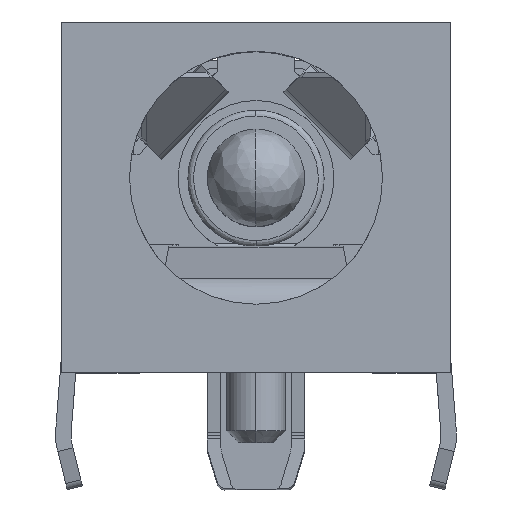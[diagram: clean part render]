
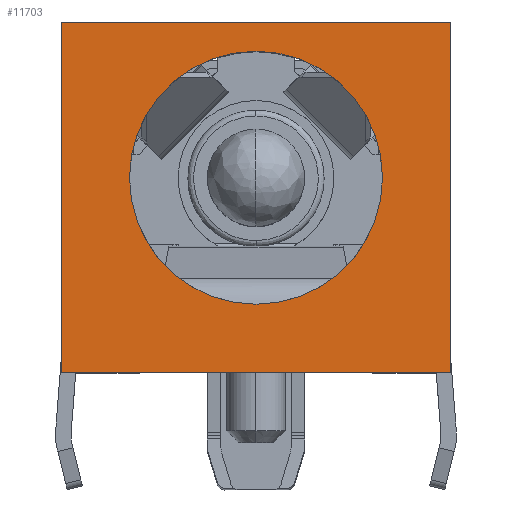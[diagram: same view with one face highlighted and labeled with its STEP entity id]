
A CAD part, top view. The second image highlights one B-rep face of the part: STEP entity #11703.
In plain terms, the highlighted planar face has unit normal (0, 0, 1).
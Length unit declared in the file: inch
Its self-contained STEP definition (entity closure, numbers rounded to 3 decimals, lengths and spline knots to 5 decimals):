
#174 = ORIENTED_EDGE ( 'NONE', *, *, #7807, .F. ) ;
#231 = CIRCLE ( 'NONE', #1441, 0.12795 ) ;
#497 = CARTESIAN_POINT ( 'NONE',  ( 0.12795, 0., 0. ) ) ;
#1021 = DIRECTION ( 'NONE',  ( 0., 0., 1. ) ) ;
#1122 = PLANE ( 'NONE',  #18113 ) ;
#1144 = CARTESIAN_POINT ( 'NONE',  ( 0.19685, 0.15748, 0. ) ) ;
#1363 = CARTESIAN_POINT ( 'NONE',  ( 0.19685, -0.19685, 0. ) ) ;
#1441 = AXIS2_PLACEMENT_3D ( 'NONE', #8064, #16854, #5487 ) ;
#1477 = EDGE_LOOP ( 'NONE', ( #174, #14335 ) ) ;
#1730 = CIRCLE ( 'NONE', #12362, 0.12795 ) ;
#1814 = LINE ( 'NONE', #14690, #4935 ) ;
#2357 = DIRECTION ( 'NONE',  ( 1., 0., 0. ) ) ;
#2419 = EDGE_CURVE ( 'NONE', #15585, #18159, #7420, .T. ) ;
#2587 = ORIENTED_EDGE ( 'NONE', *, *, #2419, .F. ) ;
#4052 = CARTESIAN_POINT ( 'NONE',  ( -0.12795, 0., 0. ) ) ;
#4935 = VECTOR ( 'NONE', #16213, 39.37008 ) ;
#5040 = DIRECTION ( 'NONE',  ( 0., 0., 1. ) ) ;
#5095 = VECTOR ( 'NONE', #18625, 39.37008 ) ;
#5192 = FACE_OUTER_BOUND ( 'NONE', #6737, .T. ) ;
#5487 = DIRECTION ( 'NONE',  ( 1., 0., 0. ) ) ;
#5867 = EDGE_CURVE ( 'NONE', #18159, #17656, #1814, .T. ) ;
#6155 = VECTOR ( 'NONE', #8662, 39.37008 ) ;
#6737 = EDGE_LOOP ( 'NONE', ( #16828, #2587, #15404, #15776 ) ) ;
#7420 = LINE ( 'NONE', #15935, #6155 ) ;
#7807 = EDGE_CURVE ( 'NONE', #14946, #17084, #231, .T. ) ;
#7973 = EDGE_CURVE ( 'NONE', #17656, #9968, #17524, .T. ) ;
#8064 = CARTESIAN_POINT ( 'NONE',  ( 0., 0., 0. ) ) ;
#8662 = DIRECTION ( 'NONE',  ( 1., 0., 0. ) ) ;
#8699 = EDGE_CURVE ( 'NONE', #9968, #15585, #12895, .T. ) ;
#9513 = DIRECTION ( 'NONE',  ( 1., 0., 0. ) ) ;
#9611 = CARTESIAN_POINT ( 'NONE',  ( 0., 0., 0. ) ) ;
#9677 = FACE_BOUND ( 'NONE', #1477, .T. ) ;
#9778 = CARTESIAN_POINT ( 'NONE',  ( -0.19685, 0.15748, 0. ) ) ;
#9968 = VERTEX_POINT ( 'NONE', #13185 ) ;
#11703 = ADVANCED_FACE ( 'NONE', ( #9677, #5192 ), #1122, .T. ) ;
#12362 = AXIS2_PLACEMENT_3D ( 'NONE', #9611, #5040, #9513 ) ;
#12733 = EDGE_CURVE ( 'NONE', #17084, #14946, #1730, .T. ) ;
#12895 = LINE ( 'NONE', #15858, #5095 ) ;
#13135 = CARTESIAN_POINT ( 'NONE',  ( 0., -0.19685, 0. ) ) ;
#13185 = CARTESIAN_POINT ( 'NONE',  ( -0.19685, -0.19685, 0. ) ) ;
#14335 = ORIENTED_EDGE ( 'NONE', *, *, #12733, .F. ) ;
#14550 = VECTOR ( 'NONE', #18766, 39.37008 ) ;
#14690 = CARTESIAN_POINT ( 'NONE',  ( 0.19685, -0.01969, 0. ) ) ;
#14946 = VERTEX_POINT ( 'NONE', #497 ) ;
#15404 = ORIENTED_EDGE ( 'NONE', *, *, #8699, .F. ) ;
#15426 = CARTESIAN_POINT ( 'NONE',  ( -0.20472, -0.20394, 0. ) ) ;
#15585 = VERTEX_POINT ( 'NONE', #9778 ) ;
#15776 = ORIENTED_EDGE ( 'NONE', *, *, #7973, .F. ) ;
#15858 = CARTESIAN_POINT ( 'NONE',  ( -0.19685, -0.01969, 0. ) ) ;
#15935 = CARTESIAN_POINT ( 'NONE',  ( 0., 0.15748, 0. ) ) ;
#16213 = DIRECTION ( 'NONE',  ( 0., -1., 0. ) ) ;
#16828 = ORIENTED_EDGE ( 'NONE', *, *, #5867, .F. ) ;
#16854 = DIRECTION ( 'NONE',  ( 0., 0., 1. ) ) ;
#17084 = VERTEX_POINT ( 'NONE', #4052 ) ;
#17524 = LINE ( 'NONE', #13135, #14550 ) ;
#17656 = VERTEX_POINT ( 'NONE', #1363 ) ;
#18113 = AXIS2_PLACEMENT_3D ( 'NONE', #15426, #1021, #2357 ) ;
#18159 = VERTEX_POINT ( 'NONE', #1144 ) ;
#18625 = DIRECTION ( 'NONE',  ( 0., 1., 0. ) ) ;
#18766 = DIRECTION ( 'NONE',  ( -1., 0., 0. ) ) ;
